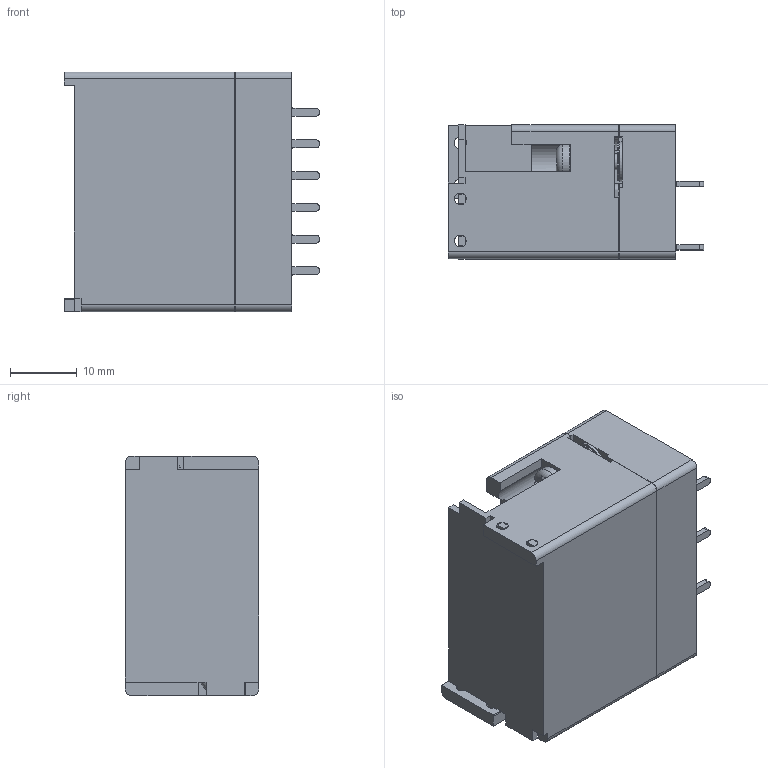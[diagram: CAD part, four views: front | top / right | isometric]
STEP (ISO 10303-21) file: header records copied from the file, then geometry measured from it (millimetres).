
FILE_DESCRIPTION((''),'2;1');
FILE_NAME('3PIN_ASM','2022-06-22T',('renkang.li'),(''),'CREO PARAMETRIC BY PTC INC, 2016260','CREO PARAMETRIC BY PTC INC, 2016260','');
FILE_SCHEMA(('CONFIG_CONTROL_DESIGN'));
Products named in the file (1): 3PIN_ASM
Bounding box: 38.2 x 20 x 35.9 mm (x, y, z)
Volume: 14152.5 mm3; surface area: 17806 mm2
Topology: 1 solids, 1 shells, 2583 faces, 7498 edges, 4817 vertices
Faces by surface type: plane 1444, cylinder 528, bspline 407, torus 90, sphere 66, cone 24, extrusion 24
Entity records: 117274 total; most frequent: CARTESIAN_POINT 52652, ORIENTED_EDGE 14976, DIRECTION 11432, EDGE_CURVE 7488, VERTEX_POINT 4814, VECTOR 4032, LINE 4008, AXIS2_PLACEMENT_3D 3700
